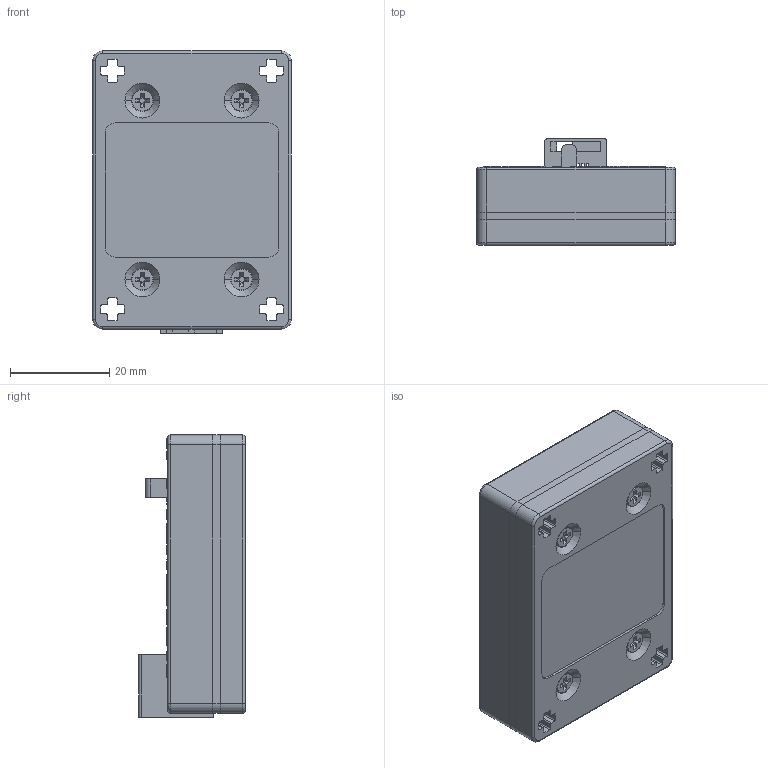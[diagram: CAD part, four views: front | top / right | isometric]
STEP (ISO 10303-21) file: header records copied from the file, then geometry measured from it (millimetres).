
FILE_DESCRIPTION (( 'STEP AP214' ), '1' );
FILE_NAME ('44519_TXP-PRIME EV3 Module.STEP', '2018-09-25T21:40:06', ( '' ), ( '' ), 'SwSTEP 2.0', 'SolidWorks 2016', '' );
FILE_SCHEMA (( 'AUTOMOTIVE_DESIGN' ));
Length unit declared in the file: millimetre
Products named in the file (1): 44519_TXP-PRIME EV3 Module
Bounding box: 40 x 21.44 x 56.79 mm (x, y, z)
Volume: 18293.5 mm3; surface area: 25927.8 mm2
Topology: 75 solids, 75 shells, 2655 faces, 6915 edges, 4535 vertices
Faces by surface type: plane 1449, bspline 613, cylinder 531, torus 38, cone 24
Entity records: 146084 total; most frequent: CARTESIAN_POINT 55663, ORIENTED_EDGE 13830, DIRECTION 10107, EDGE_CURVE 6915, VERTEX_POINT 4535, LINE 4525, VECTOR 4525, EDGE_LOOP 2854
